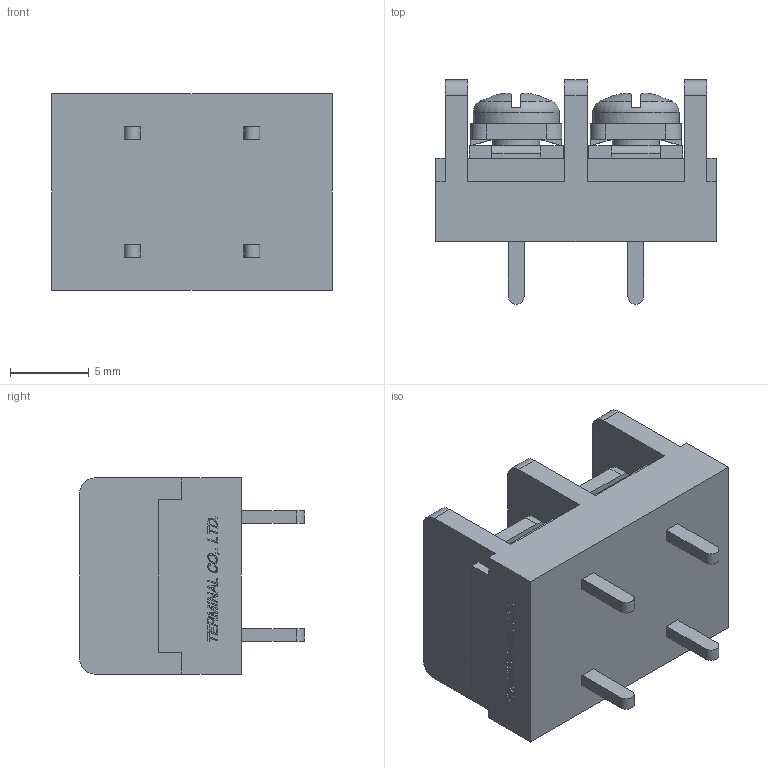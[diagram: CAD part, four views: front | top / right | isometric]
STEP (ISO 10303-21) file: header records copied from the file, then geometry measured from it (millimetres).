
FILE_DESCRIPTION(/* description */ ('Alibre Inc.'),/* implementation_level */ '2;1');
FILE_NAME(/* name */ 'export0',/* time_stamp */ '2015-10-26T18:15:52+09:00',/* author */ (''),/* organization */ (''),/* preprocessor_version */ 'ST-DEVELOPER v14',/* originating_system */ 'Alibre',/* authorisation */ '');
FILE_SCHEMA (('CONFIG_CONTROL_DESIGN'));
Length unit declared in the file: centimetre
Products named in the file (1): ID_1
Bounding box: 17.86 x 14.3 x 12.5 mm (x, y, z)
Volume: 1635.8 mm3; surface area: 1622.9 mm2
Topology: 1 solids, 1 shells, 588 faces, 1588 edges, 1052 vertices
Faces by surface type: plane 442, bspline 104, cylinder 26, cone 8, torus 4, sphere 4
Full cylindrical faces by diameter (mm): 3 x2, 5.5 x2
Entity records: 17757 total; most frequent: CARTESIAN_POINT 4217, ORIENTED_EDGE 3152, DIRECTION 1926, EDGE_CURVE 1576, VECTOR 1196, LINE 1196, VERTEX_POINT 1048, EDGE_LOOP 646
